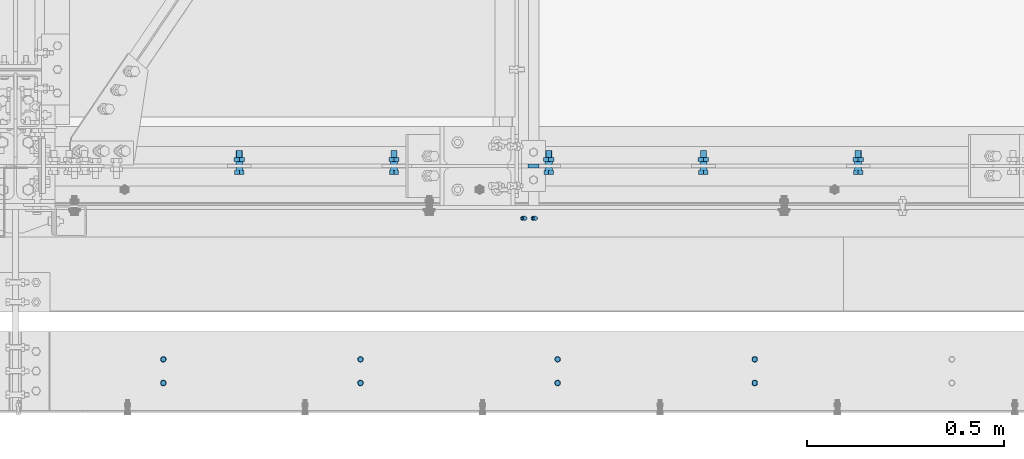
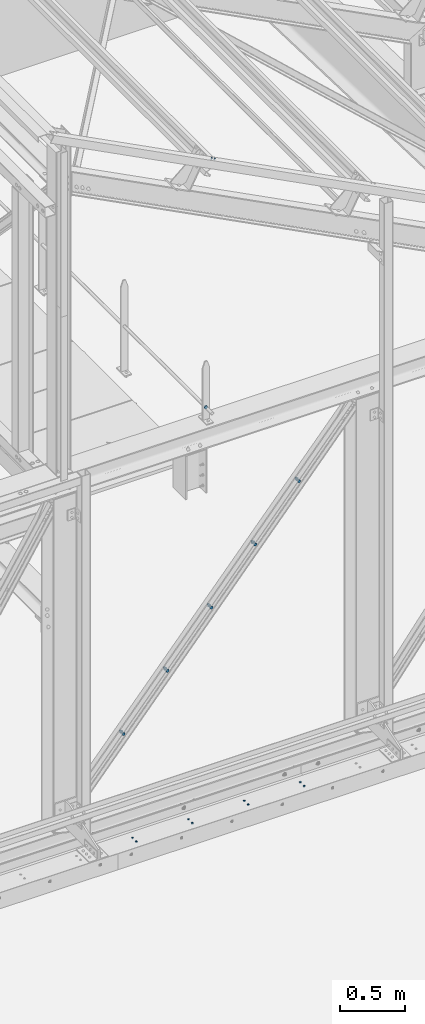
# One storey, part 267 of 362: 12 mechanical fasteners.
"""IFC2X3 building model written with IfcOpenShell, lengths in millimetres."""

from ifc_helpers import new_model, si_unit, frame, origin_with_axes, origin_2d_with_axis, place, context, subcontext, project, spatial, polyline, circle, outline, extrude, source, transform, mapped, material, type_object, element, save


model = new_model("IFC2X3")

# Units and contexts
model_context = context("Model", 3, precision=1e-05, world=origin_with_axes())
body_context = subcontext(model_context, "Body", "Model", "MODEL_VIEW")
ifc_project = project(units=[si_unit("LENGTHUNIT", "METRE", prefix="MILLI"), si_unit("AREAUNIT", "SQUARE_METRE"), si_unit("VOLUMEUNIT", "CUBIC_METRE"), si_unit("MASSUNIT", "GRAM", prefix="KILO"), si_unit("TIMEUNIT", "SECOND"), si_unit("PLANEANGLEUNIT", "RADIAN"), si_unit("SOLIDANGLEUNIT", "STERADIAN"), si_unit("THERMODYNAMICTEMPERATUREUNIT", "DEGREE_CELSIUS"), si_unit("LUMINOUSINTENSITYUNIT", "LUMEN")], contexts=[model_context])

# Site, building, storey
site_placement = place(None, origin_with_axes())
site = spatial("IfcSite", under=ifc_project, at=site_placement, Name="Undefined", CompositionType="ELEMENT")
building_placement = place(site_placement, origin_with_axes())
building = spatial("IfcBuilding", under=site, at=building_placement, Name="Undefined", CompositionType="ELEMENT")
storey_placement = place(building_placement, origin_with_axes())
storey = spatial("IfcBuildingStorey", under=building, at=storey_placement, Name="Undefined", CompositionType="ELEMENT", Elevation=0.0)

# Mechanical fasteners
ifc_material_1 = material(Name="8.8-SB-ZINGUE")
mechanical_fastener_type = type_object("IfcMechanicalFastenerType", Name="Bolt assembly")
shared_shape_1 = source(origin_with_axes(), body_context, "Body", "SweptSolid", [
    extrude(circle(Radius=7.0, at=origin_2d_with_axis()), frame((0.0, -8.5, 0.0), z_axis=(0.0, 1.0, 0.0), x_axis=(1.0, 0.0, 0.0)), (0.0, 0.0, 1.0), 8.6),
])
for number, where, z_axis, x_axis, name in (
    (1, (23844.9989211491, -490.0, 5229.99824538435), (-1.0, 0.0, 0.0), (0.0, -1.0, 0.0), "Bolt assembly"),
    (2, (24344.9989211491, -490.0, 5229.99824538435), (-1.0, 0.0, 0.0), (0.0, -1.0, 0.0), "Bolt assembly"),
    (3, (24844.9989211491, -490.0, 5229.99824538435), (-1.0, 0.0, 0.0), (0.0, -1.0, 0.0), "Bolt assembly"),
    (4, (25344.9989211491, -490.0, 5229.99824538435), (-1.0, 0.0, 0.0), (0.0, -1.0, 0.0), "Bolt assembly"),
):
    element("IfcMechanicalFastener", number, at=place(storey_placement, frame(where, z_axis=z_axis, x_axis=x_axis)), inside=storey, type_object=mechanical_fastener_type, material=ifc_material_1, Name=name, NominalDiameter=12.0, NominalLength=8.5, context=body_context, shape_type="MappedRepresentation", body=[
        mapped(shared_shape_1, transform((0.0, 0.0, 0.0))),
        mapped(shared_shape_1, transform((60.0, 0.0, 0.0))),
    ])
shared_shape_2 = source(origin_with_axes(), body_context, "Body", "SweptSolid", [
    extrude(circle(Radius=9.0, at=origin_2d_with_axis()), frame((0.0, -10.9000000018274, 0.0), z_axis=(0.0, 1.0, 0.0), x_axis=(1.0, 0.0, 0.0)), (0.0, 0.0, 1.0), 6.0),
    extrude(circle(Radius=9.0, at=origin_2d_with_axis()), frame((0.0, 4.9000000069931, 0.0), z_axis=(0.0, 1.0, 0.0), x_axis=(1.0, 0.0, 0.0)), (0.0, 0.0, 1.0), 6.1),
    extrude(circle(Radius=9.0, at=origin_2d_with_axis()), frame((0.0, -3.99999923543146, 0.0), z_axis=(0.0, 1.0, 0.0), x_axis=(1.0, 0.0, 0.0)), (0.0, 0.0, 1.0), 8.0),
    extrude(outline(polyline([(13.85640646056, 0.0), (6.92820323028, 12.0000000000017), (-6.92820323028, 12.0000000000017), (-13.85640646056, 0.0), (-6.92820323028, -12.0000000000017), (6.92820323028, -12.0000000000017), (13.85640646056, 0.0)])), frame((0.0, -21.5600000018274, 0.0), z_axis=(0.0, 1.0, 0.0), x_axis=(1.0, 0.0, 0.0)), (0.0, 0.0, 1.0), 10.56),
    extrude(circle(Radius=8.0, at=origin_2d_with_axis()), frame((0.0, -11.0000000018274, 0.0), z_axis=(0.0, 1.0, 0.0), x_axis=(1.0, 0.0, 0.0)), (0.0, 0.0, 1.0), 50.0),
    extrude(outline(polyline([(15.3344231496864, 0.0), (7.6672115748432, 13.2800000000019), (-7.6672115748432, 13.2800000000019), (-15.3344231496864, 0.0), (-7.6672115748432, -13.2800000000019), (7.6672115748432, -13.2800000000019), (15.3344231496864, 0.0)])), frame((0.0, 11.0000000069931, 0.0), z_axis=(0.0, 1.0, 0.0), x_axis=(1.0, 0.0, 0.0)), (0.0, 0.0, 1.0), 10.56),
])
for number, where, z_axis, x_axis, name in (
    (5, (25607.3267034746, 0.0, 7694.74121122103), (1.0, 0.0, 0.0), (0.0, 0.0, -1.0), "Bolt assembly"),
    (6, (25214.9133119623, 0.0, 7234.8706059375), (1.0, 0.0, 0.0), (0.0, 0.0, -1.0), "Bolt assembly"),
    (7, (24822.49992045, 0.0, 6775.00000065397), (1.0, 0.0, 0.0), (0.0, 0.0, -1.0), "Bolt assembly"),
    (8, (24430.0865289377, 0.0, 6315.12939537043), (1.0, 0.0, 0.0), (0.0, 0.0, -1.0), "Bolt assembly"),
    (9, (24037.6731374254, 0.0, 5855.2587900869), (1.0, 0.0, 0.0), (0.0, 0.0, -1.0), "Bolt assembly"),
):
    element("IfcMechanicalFastener", number, at=place(storey_placement, frame(where, z_axis=z_axis, x_axis=x_axis)), inside=storey, type_object=mechanical_fastener_type, material=ifc_material_1, Name=name, NominalDiameter=16.0, NominalLength=50.0, context=body_context, shape_type="MappedRepresentation", body=[
        mapped(shared_shape_2, transform((0.0, 0.0, 0.0))),
    ])
ifc_material_2 = material(Name="6.8")
shared_shape_3 = source(origin_with_axes(), body_context, "Body", "SweptSolid", [
    extrude(circle(Radius=14.0, at=origin_2d_with_axis()), frame((0.0, -5.00000000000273, 0.0), z_axis=(0.0, 1.0, 0.0), x_axis=(1.0, 0.0, 0.0)), (0.0, 0.0, 1.0), 10.1),
])
for number, where, z_axis, x_axis, name in (
    (10, (24783.9915989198, 2.30473006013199e-07, 8673.8000065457), (0.0, 0.0, 1.0), (-1.0, 0.0, 0.0), "Bolt assembly"),
    (11, (24783.9915989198, 2.30473006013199e-07, 8673.8000065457), (0.0, 0.0, 1.0), (-1.0, 0.0, 0.0), "Bolt assembly"),
):
    element("IfcMechanicalFastener", number, at=place(storey_placement, frame(where, z_axis=z_axis, x_axis=x_axis)), inside=storey, type_object=mechanical_fastener_type, material=ifc_material_2, Name=name, NominalDiameter=27.0, NominalLength=10.0, context=body_context, shape_type="MappedRepresentation", body=[
        mapped(shared_shape_3, transform((0.0, 0.0, 0.0))),
    ])
shared_shape_4 = source(origin_with_axes(), body_context, "Body", "SweptSolid", [
    extrude(circle(Radius=4.0, at=origin_2d_with_axis()), frame((0.0, 0.0, 0.0), z_axis=(0.0, 1.0, 0.0), x_axis=(1.0, 0.0, 0.0)), (0.0, 0.0, 1.0), 7.1),
    extrude(outline(polyline([(5.7735026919, 0.0), (2.88675134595, 5.00000000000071), (-2.88675134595, 5.00000000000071), (-5.7735026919, 0.0), (-2.88675134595, -5.00000000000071), (2.88675134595, -5.00000000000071), (5.7735026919, 0.0)])), frame((0.0, -3.99999923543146, 0.0), z_axis=(0.0, 1.0, 0.0), x_axis=(1.0, 0.0, 0.0)), (0.0, 0.0, 1.0), 4.0),
    extrude(circle(Radius=3.0, at=origin_2d_with_axis()), frame((0.0, 0.0, 0.0), z_axis=(0.0, 1.0, 0.0), x_axis=(1.0, 0.0, 0.0)), (0.0, 0.0, 1.0), 16.0),
    extrude(outline(polyline([(5.7735026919, 0.0), (2.88675134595, 5.00000000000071), (-2.88675134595, 5.00000000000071), (-5.7735026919, 0.0), (-2.88675134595, -5.00000000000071), (2.88675134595, -5.00000000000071), (5.7735026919, 0.0)])), frame((0.0, 7.0, 0.0), z_axis=(0.0, 1.0, 0.0), x_axis=(1.0, 0.0, 0.0)), (0.0, 0.0, 1.0), 5.2),
])
mechanical_fastener_placement = place(storey_placement, frame((24773.8583706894, -132.49992038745, 11109.1762648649), z_axis=(-0.887869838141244, 0.0, 0.460094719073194), x_axis=(0.0, 1.0, 0.0)))
element("IfcMechanicalFastener", 12, at=mechanical_fastener_placement, inside=storey, type_object=mechanical_fastener_type, material=ifc_material_2, Name="Bolt assembly", NominalDiameter=6.0, NominalLength=16.0, context=body_context, shape_type="MappedRepresentation", body=[
    mapped(shared_shape_4, transform((0.0, 0.0, -15.0))),
    mapped(shared_shape_4, transform((0.0, -3.63797880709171e-12, 15.0000000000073))),
])

save(model, "model.ifc")
